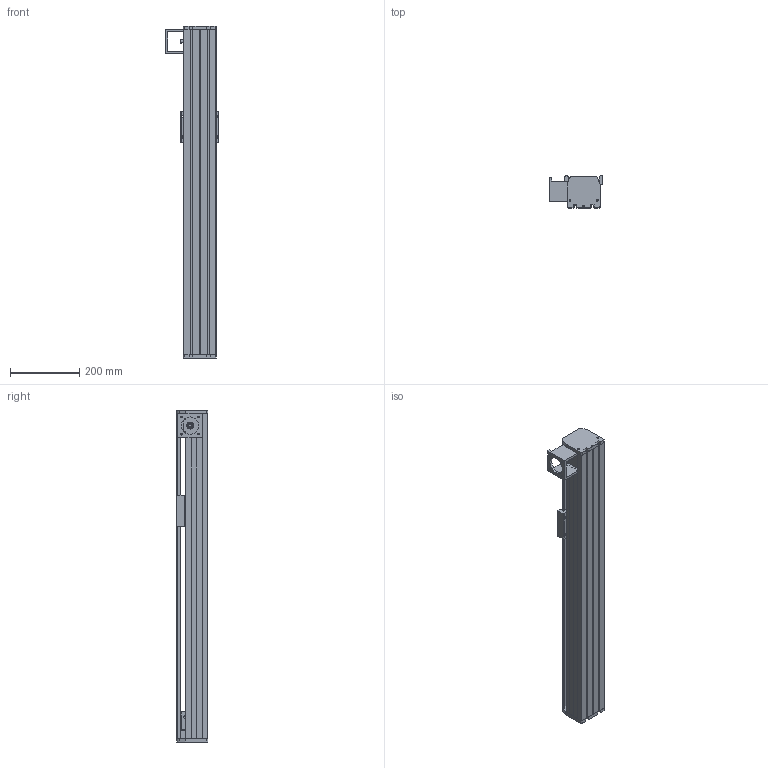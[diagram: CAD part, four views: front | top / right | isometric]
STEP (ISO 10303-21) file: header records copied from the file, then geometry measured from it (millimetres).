
FILE_DESCRIPTION (( 'STEP AP214' ), '1' );
FILE_NAME ('CF90-D-C-FWL.STEP', '2016-07-18T01:39:41', ( 'Sky123.Org' ), ( 'Sky123.Org' ), 'SwSTEP 2.0', 'SolidWorks 2015', '' );
FILE_SCHEMA (( 'AUTOMOTIVE_DESIGN' ));
Length unit declared in the file: millimetre
Products named in the file (15): CF-HGW20CA; HGR20絳寢; CF95臏倰第; CF90-D-C-FWL; 5M-Z15-25-囀噤12; 薊粣ん杶; 5M-Z15-25-囀噤10植雄謫; 翋雄粣; 植雄粣; 翋雄釱; deep groove ball bearings gb_Rolling bearings 16001 GB 276-94; 95賑輸; 95裔啣-1; 95耜啣; 植雄釱
Assembly tree (16 placements, depth 2):
  CF90-D-C-FWL
    CF95臏倰第
    HGR20絳寢
    CF-HGW20CA
    植雄釱
    95耜啣  x2
    95裔啣-1
    95賑輸
    deep groove ball bearings gb_Rolling bearings 16001 GB 276-94  x2
    翋雄釱
    植雄粣
    翋雄粣
    5M-Z15-25-囀噤10植雄謫
    薊粣ん杶
    5M-Z15-25-囀噤12
Bounding box: 155.54 x 91.48 x 960 mm (x, y, z)
Volume: 3148361.6 mm3; surface area: 996263.6 mm2
Topology: 16 solids, 16 shells, 1007 faces, 3214 edges, 2142 vertices
Faces by surface type: plane 480, cylinder 361, torus 106, sphere 56, cone 4
Entity records: 32841 total; most frequent: CARTESIAN_POINT 7133, ORIENTED_EDGE 5192, DIRECTION 5055, EDGE_CURVE 2596, AXIS2_PLACEMENT_3D 1799, VERTEX_POINT 1725, VECTOR 1457, LINE 1457
